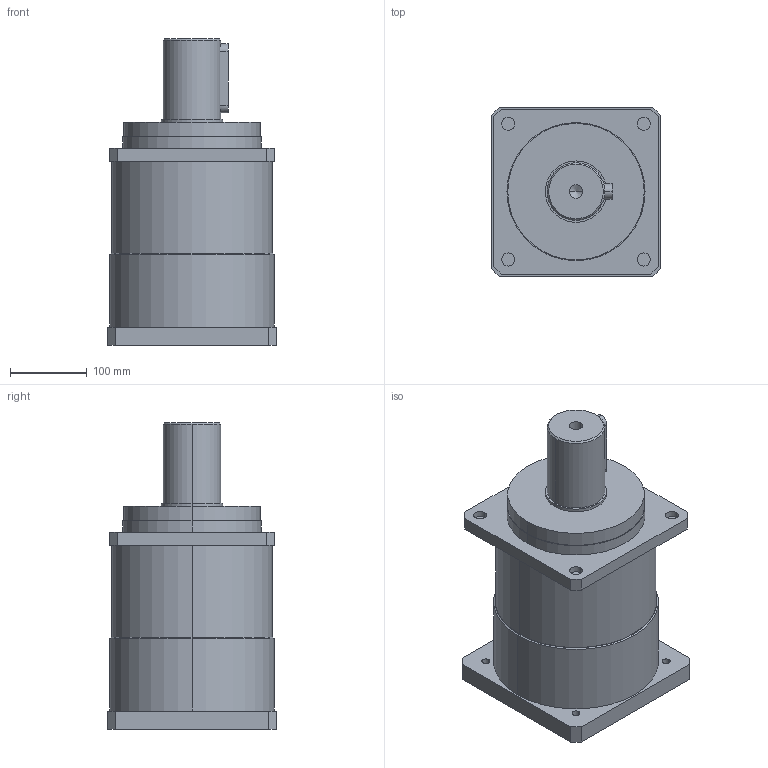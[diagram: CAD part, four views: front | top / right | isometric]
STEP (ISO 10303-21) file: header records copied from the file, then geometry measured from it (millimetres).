
FILE_DESCRIPTION (( 'STEP AP214' ), '1' );
FILE_NAME ('VRS210-L1.STEP', '2019-08-31T07:46:38', ( '微软用户' ), ( '微软中国' ), 'SwSTEP 2.0', 'SolidWorks 2014', '' );
FILE_SCHEMA (( 'AUTOMOTIVE_DESIGN' ));
Length unit declared in the file: millimetre
Products named in the file (2): VRS210-L1
Bounding box: 220 x 220 x 400 mm (x, y, z)
Volume: 10342743.5 mm3; surface area: 375378.9 mm2
Topology: 1 solids, 1 shells, 702 faces, 1999 edges, 1330 vertices
Faces by surface type: plane 599, bspline 60, cylinder 37, cone 6
Entity records: 29754 total; most frequent: CARTESIAN_POINT 4911, ORIENTED_EDGE 3994, DIRECTION 3238, EDGE_CURVE 1997, VECTOR 1796, LINE 1796, VERTEX_POINT 1330, EDGE_LOOP 743
